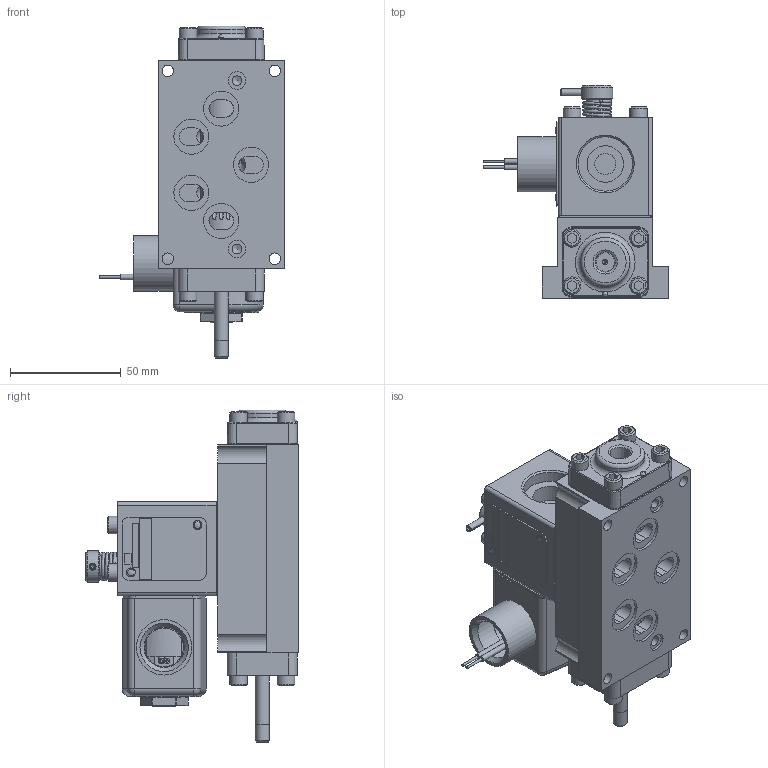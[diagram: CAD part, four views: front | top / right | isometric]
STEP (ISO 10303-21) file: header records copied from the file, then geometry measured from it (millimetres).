
FILE_DESCRIPTION(/* description */ (''),/* implementation_level */ '2;1');
FILE_NAME(/* name */ 'D:\Website New\Valves\Classic\SR\stp\SR3PONK.stp',/* time_stamp */ '2020-03-28T22:58:57-04:00',/* author */ ('RMcKenna'),/* organization */ (''),/* preprocessor_version */ 'ST-DEVELOPER v17',/* originating_system */ 'Autodesk Inventor 2018',/* authorisation */ '');
FILE_SCHEMA (('AUTOMOTIVE_DESIGN { 1 0 10303 214 3 1 1 }'));
Products named in the file (1): Part3
Bounding box: 83.63 x 96.35 x 150.18 mm (x, y, z)
Volume: 289140.6 mm3; surface area: 106736.9 mm2
Topology: 2 solids, 39 shells, 1521 faces, 3739 edges, 2417 vertices
Faces by surface type: plane 655, cylinder 363, cone 301, torus 124, bspline 71, sphere 7
Full cylindrical faces by diameter (mm): 1.016 x1, 1.041 x1, 1.168 x2, 1.321 x1, 1.397 x1, 1.727 x3, 2.07 x2, 2.261 x2, 2.35 x1, 2.362 x2, 2.381 x2, 2.54 x2, 2.778 x2, 3.048 x3, 3.175 x5, 3.302 x1, 3.683 x12, 3.912 x1, 3.962 x1, 4.366 x10, 4.369 x3, 4.826 x16, 5.105 x4, 5.156 x8, 5.159 x9, 5.537 x5, 5.639 x1, 6.35 x3, 6.629 x2, 7.671 x1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
Entity records: 51872 total; most frequent: CARTESIAN_POINT 14446, DIRECTION 7578, ORIENTED_EDGE 7408, EDGE_CURVE 3704, AXIS2_PLACEMENT_3D 2950, VERTEX_POINT 2417, EDGE_LOOP 1759, LINE 1678
